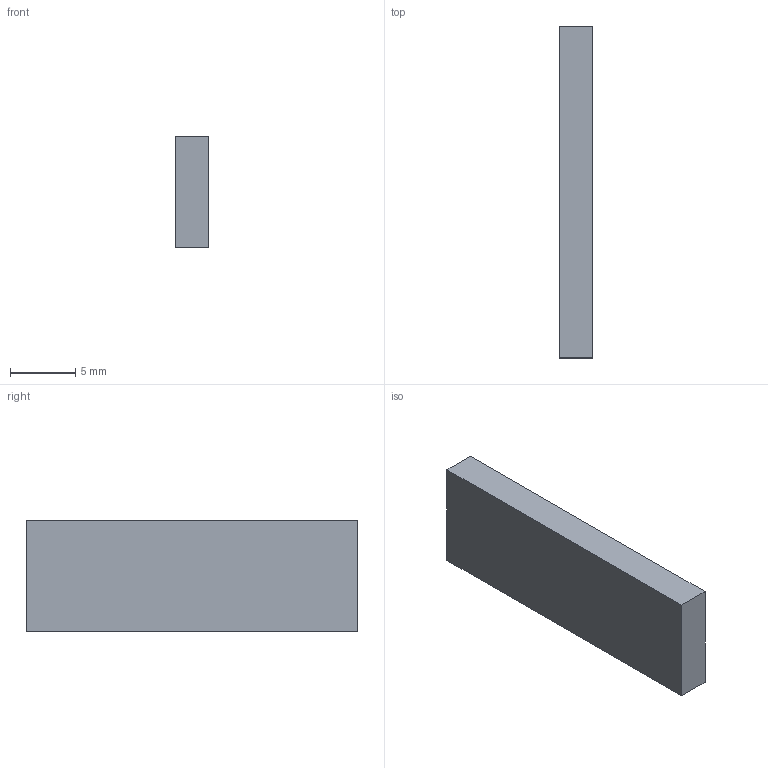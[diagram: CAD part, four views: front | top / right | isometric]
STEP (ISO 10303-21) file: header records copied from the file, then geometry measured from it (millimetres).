
FILE_DESCRIPTION(('Through-hole socket strip 1x10, 2.54 mm pitch -- body envelope 8.50 mm tall (2.54 mm socket strip, mating height (ICD-EEG-006 section 4))'),'2;1');
FILE_NAME('PinSocket_1x10_P2.54mm_Vertical','2026-09-08T00:00:00',('TI One Voice research programme'),(''),'EEG-CAR-01 step_write.py','','CC BY-SA 4.0');
FILE_SCHEMA(('AUTOMOTIVE_DESIGN { 1 0 10303 214 1 1 1 1 }'));
Length unit declared in the file: millimetre
Products named in the file (1): PinSocket_1x10_P2.54mm_Vertical
Bounding box: 2.54 x 25.4 x 8.5 mm (x, y, z)
Volume: 548.4 mm3; surface area: 604 mm2
Topology: 1 solids, 1 shells, 6 faces, 12 edges, 8 vertices
Faces by surface type: plane 6
Entity records: 67 total; most frequent: DIRECTION 14, CARTESIAN_POINT 9, AXIS2_PLACEMENT_3D 7, POLY_LOOP 6, FACE_OUTER_BOUND 6, PLANE 6, FACE_SURFACE 6, UNCERTAINTY_MEASURE_WITH_UNIT 1
